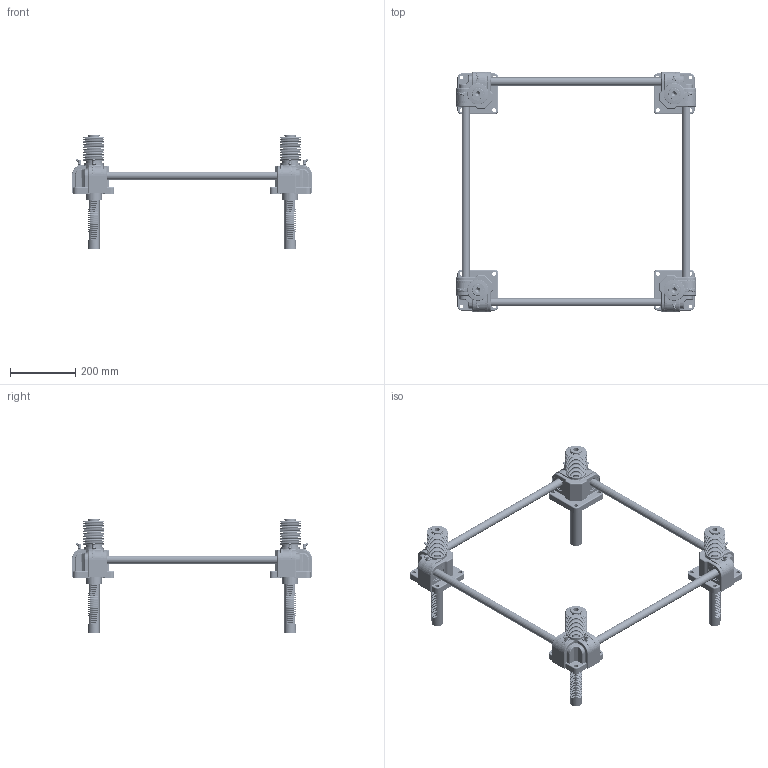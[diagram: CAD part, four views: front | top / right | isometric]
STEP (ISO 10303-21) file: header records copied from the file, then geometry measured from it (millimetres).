
FILE_DESCRIPTION(('STEP AP203'),'1');
FILE_NAME('SP1500CJ-600x600-150ST.stp','2016-08-09T08:56:22',(' '),(' '),'Spatial InterOp 3D',' ',' ');
FILE_SCHEMA(('CONFIG_CONTROL_DESIGN'));
Length unit declared in the file: millimetre
Products named in the file (61): SP1500CJ-600x600-150ST; SnapRing-33.8Pie; Rack Gear(SP-1500C); Bellow(SP-1500); Body.1-Part; Nipple; b6205zz; SnapRing-55Pie; Gear Box.1(NSP-1500); RJ05-4SCJ-610X600-100ST_CAP; LABEL-B.1; ___; 파트18; __ ; Body.2-Part; Gear Box.2(NSP-1500); Body.3-Part; Gear Box.3(NSP-1500); Body.4-Part; Gear Box.4(NSP-1500); 파트51
Assembly tree (68 placements, depth 6):
  SP1500CJ-600x600-150ST
    SnapRing-33.8Pie
    SnapRing-33.8Pie
    SnapRing-33.8Pie
    SnapRing-33.8Pie
    Rack Gear(SP-1500C)  x4
    Bellow(SP-1500)  x4
    Body.1-Part
      Nipple
      Nipple
      b6205zz
      b6205zz
      SnapRing-55Pie
      SnapRing-55Pie
      Gear Box.1(NSP-1500)
      __ 
        ___
          RJ05-4SCJ-610X600-100ST_CAP
            LABEL-B.1
          파트18
    Body.2-Part
      Nipple
      Nipple
      b6205zz
      b6205zz
      SnapRing-55Pie
      SnapRing-55Pie
      Gear Box.2(NSP-1500)
      __ 
        ___
          RJ05-4SCJ-610X600-100ST_CAP
            LABEL-B.1
          파트18
    Body.3-Part
      Nipple
      Nipple
      b6205zz
      b6205zz
      SnapRing-55Pie
      SnapRing-55Pie
      Gear Box.3(NSP-1500)
      __ 
        ___
          RJ05-4SCJ-610X600-100ST_CAP
            LABEL-B.1
          파트18
    Body.4-Part
      Nipple
      Nipple
      b6205zz
      b6205zz
      SnapRing-55Pie
      SnapRing-55Pie
      Gear Box.4(NSP-1500)
      __ 
        ___
          RJ05-4SCJ-610X600-100ST_CAP
            LABEL-B.1
          파트18
    (unnamed)  x2
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Bounding box: 735.28 x 735.28 x 350 mm (x, y, z)
Volume: 4621649.9 mm3; surface area: 1547343.7 mm2
Topology: 80 solids, 80 shells, 11740 faces, 32054 edges, 20714 vertices
Faces by surface type: plane 8408, cylinder 1896, torus 552, cone 252, bspline 224, revolution 168, extrusion 152, sphere 88
Full cylindrical faces by diameter (mm): 2.252 x8, 3.087 x16, 4.8 x8, 8 x8, 9.886 x8, 10 x8, 12 x16, 16 x4, 25 x20, 28 x8, 32.5 x16, 33.8 x4, 35 x68, 36 x4, 39 x12, 39.4 x4, 41 x8, 46.1 x16, 48 x4, 50 x16, 52 x24, 55 x8, 59 x4
Entity records: 337602 total; most frequent: CARTESIAN_POINT 86392, ORIENTED_EDGE 53426, DIRECTION 47048, EDGE_CURVE 26713, VECTOR 22280, LINE 22128, VERTEX_POINT 17590, AXIS2_PLACEMENT_3D 12300
